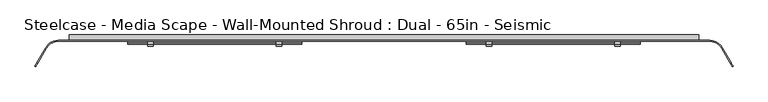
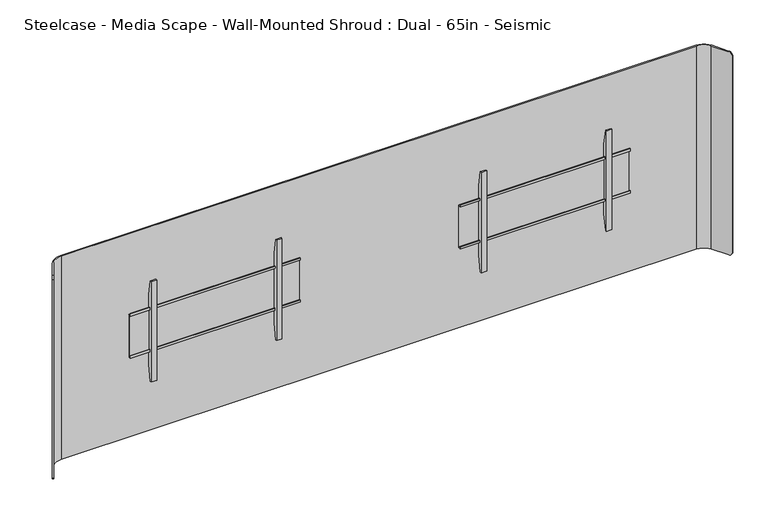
"""IFC4 building model written with IfcOpenShell, lengths in millimetres: furniture geometry, Steelcase - Media Scape - Wall-Mounted Shroud : Dual - 65in - Seismic."""

from ifc_helpers import new_model, si_unit, frame, origin, place, context, project, spatial, polyline, circle_curve, outline, extrude, source, transform, mapped, element, save
from ifc_brep_helpers import plane_surface, cylinder_surface, revolved_surface, advanced_brep


def steelcase_media_scape_wall_mounted_shroud_dual_65in_seismic_f65bf8d6(model_context):
    return source(origin(), model_context, "Body", "SolidModel", [
        extrude(outline(polyline([(-42.4942785, 1453.5504726), (-42.4942785, 1465.5645649), (-39.8272175, 1465.5645649), (-39.8272175, 1456.217461), (-29.9720009, 1456.217461), (-29.9720009, 1241.8922438), (-42.3164551, 1241.8922438), (-42.3164551, 1252.8142515), (-39.649394, 1252.8142515), (-39.649394, 1244.557052), (-32.6531824, 1244.557052), (-32.6531824, 1453.5504726), (-42.4942785, 1453.5504726)])), frame((382.524, 0.0, 0.0), z_axis=(1.0, 0.0, 0.0), x_axis=(0.0, 1.0, 0.0)), (0.0, 0.0, 1.0), 812.8),
        extrude(outline(polyline([(-32.6531824, 1524.4971148), (-32.6531824, 1172.6825607), (-46.5049349, 1095.0546949), (-53.3399828, 1095.0546949), (-53.3399828, 1603.0547192), (-46.5050076, 1603.0547192), (-32.6531824, 1524.4971148)])), frame((476.125426, 0.0, 0.0), z_axis=(1.0, 0.0, 0.0), x_axis=(0.0, 1.0, 0.0)), (0.0, 0.0, 1.0), 26.1592872),
        extrude(outline(polyline([(-32.6531824, 1524.4971148), (-32.6531824, 1172.6825607), (-46.5049349, 1095.0546949), (-53.3399828, 1095.0546949), (-53.3399828, 1603.0547192), (-46.5050076, 1603.0547192), (-32.6531824, 1524.4971148)])), frame((1075.5632868, 0.0, 0.0), z_axis=(1.0, 0.0, 0.0), x_axis=(0.0, 1.0, 0.0)), (0.0, 0.0, 1.0), 26.1592872),
        extrude(outline(polyline([(-42.4942785, 1453.5504726), (-42.4942785, 1465.5645649), (-39.8272175, 1465.5645649), (-39.8272175, 1456.217461), (-29.9720009, 1456.217461), (-29.9720009, 1241.8922438), (-42.3164551, 1241.8922438), (-42.3164551, 1252.8142515), (-39.649394, 1252.8142515), (-39.649394, 1244.557052), (-32.6531824, 1244.557052), (-32.6531824, 1453.5504726), (-42.4942785, 1453.5504726)])), frame((-1195.324, 0.0, 0.0), z_axis=(1.0, 0.0, 0.0), x_axis=(0.0, 1.0, 0.0)), (0.0, 0.0, 1.0), 812.8),
        extrude(outline(polyline([(-32.6531824, 1524.4971148), (-32.6531824, 1172.6825607), (-46.5049349, 1095.0546949), (-53.3399828, 1095.0546949), (-53.3399828, 1603.0547192), (-46.5050076, 1603.0547192), (-32.6531824, 1524.4971148)])), frame((-502.2847132, 0.0, 0.0), z_axis=(1.0, 0.0, 0.0), x_axis=(0.0, 1.0, 0.0)), (0.0, 0.0, 1.0), 26.1592872),
        extrude(outline(polyline([(-32.6531824, 1524.4971148), (-32.6531824, 1172.6825607), (-46.5049349, 1095.0546949), (-53.3399828, 1095.0546949), (-53.3399828, 1603.0547192), (-46.5050076, 1603.0547192), (-32.6531824, 1524.4971148)])), frame((-1101.722574, 0.0, 0.0), z_axis=(1.0, 0.0, 0.0), x_axis=(0.0, 1.0, 0.0)), (0.0, 0.0, 1.0), 26.1592872),
        extrude(outline(polyline([(1466.85, -25.4), (-1466.85, -25.4), (-1466.85, 0.0), (1466.85, 0.0), (1466.85, -25.4)])), frame((0.0, 0.0, 835.914), z_axis=(0.0, 0.0, 1.0), x_axis=(1.0, 0.0, 0.0)), (0.0, 0.0, 1.0), 76.2508167),
        advanced_brep(
        [(-1573.6586135, -61.722, 1864.614), (-1518.666002, -29.9720009, 1864.614), (1518.666, -29.9720009, 1864.614), (1573.6586135, -61.722, 1864.614), (1613.779586, -131.2135628, 1864.614), (1617.7390541, -128.9275628, 1864.614), (1577.6180817, -59.436, 1864.614), (1518.666002, -25.4, 1864.614), (-1518.666, -25.4, 1864.614), (-1577.6180817, -59.436, 1864.614), (-1617.7421659, -128.9329524, 1864.614), (-1613.7826977, -131.2189524, 1864.614), (-1577.6180817, -59.436, 835.914), (-1518.666002, -25.4, 835.914), (1518.666, -25.4, 835.914), (1577.6180817, -59.436, 835.914), (1617.7906629, -129.0169518, 835.914), (1613.8311948, -131.3029518, 835.914), (1573.6586135, -61.722, 835.914), (1518.666002, -29.9720009, 835.914), (-1518.666, -29.9720009, 835.914), (-1573.6586135, -61.722, 835.914), (-1613.8454014, -131.3275584, 835.914), (-1617.8048695, -129.0415584, 835.914), (-1627.3090632, -145.5033047, 849.5242766), (-1627.3090632, -145.5033047, 1850.6227735), (-1623.3495951, -147.7893047, 1850.6227735), (-1623.3495951, -147.7893047, 849.5242766), (1623.3270866, -147.7503189, 849.4756893), (1623.3270866, -147.7503189, 1850.7433849), (1627.2865547, -145.4643189, 1850.7433849), (1627.2865547, -145.4643189, 849.4756893)],
        [
            (0, 1, circle_curve(frame((-1518.666002, -93.4719991, 1864.614), z_axis=(0.0, 0.0, -1.0), x_axis=(0.0, 1.0, 0.0)), 63.4999981)),
            (1, 2),
            (2, 3, circle_curve(frame((1518.666002, -93.4719991, 1864.614), z_axis=(0.0, 0.0, -1.0), x_axis=(0.0, 1.0, 0.0)), 63.4999981)),
            (3, 4),
            (4, 5),
            (5, 6),
            (6, 7, circle_curve(frame((1518.6660004, -93.472, 1864.614), z_axis=(0.0, 0.0, 1.0), x_axis=(0.0, 1.0, 0.0)), 68.072)),
            (7, 8),
            (8, 9, circle_curve(frame((-1518.6660004, -93.472, 1864.614), z_axis=(0.0, 0.0, 1.0), x_axis=(0.0, 1.0, 0.0)), 68.072)),
            (9, 10),
            (10, 11),
            (11, 0),
            (12, 13, circle_curve(frame((-1518.6660004, -93.472, 835.914), z_axis=(0.0, 0.0, -1.0), x_axis=(0.0, 1.0, 0.0)), 68.072)),
            (13, 14),
            (14, 15, circle_curve(frame((1518.6660004, -93.472, 835.914), z_axis=(0.0, 0.0, -1.0), x_axis=(0.0, 1.0, 0.0)), 68.072)),
            (15, 16),
            (16, 17),
            (17, 18),
            (18, 19, circle_curve(frame((1518.666002, -93.4719991, 835.914), z_axis=(0.0, 0.0, 1.0), x_axis=(0.0, 1.0, 0.0)), 63.4999981)),
            (19, 20),
            (20, 21, circle_curve(frame((-1518.666002, -93.4719991, 835.914), z_axis=(0.0, 0.0, 1.0), x_axis=(0.0, 1.0, 0.0)), 63.4999981)),
            (21, 22),
            (22, 23),
            (23, 12),
            (0, 21),
            (20, 1),
            (8, 13),
            (12, 9),
            (23, 24, circle_curve(frame((-1617.8048695, -129.0415584, 855.9928872), z_axis=(-0.8660254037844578, 0.4999999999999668, 0.0), x_axis=(-0.4999999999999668, -0.8660254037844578, 0.0)), 20.0788872)),
            (24, 25),
            (25, 10, circle_curve(frame((-1617.7421659, -128.9329524, 1844.5351128), z_axis=(-0.866025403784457, 0.49999999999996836, 0.0), x_axis=(-0.49999999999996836, -0.866025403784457, 0.0)), 20.0788872)),
            (26, 25),
            (24, 27),
            (27, 26),
            (11, 26, circle_curve(frame((-1613.7826977, -131.2189524, 1844.5351128), z_axis=(0.866025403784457, -0.49999999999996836, 0.0), x_axis=(-0.49999999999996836, -0.866025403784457, 0.0)), 20.0788872)),
            (27, 22, circle_curve(frame((-1613.8454014, -131.3275584, 855.9928872), z_axis=(0.8660254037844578, -0.4999999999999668, 0.0), x_axis=(-0.4999999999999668, -0.8660254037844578, 0.0)), 20.0788872)),
            (7, 14),
            (19, 2),
            (3, 18),
            (17, 28, circle_curve(frame((1613.8311948, -131.3029518, 855.9928872), z_axis=(-0.8660254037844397, -0.49999999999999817, 0.0), x_axis=(0.49999999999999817, -0.8660254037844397, 0.0)), 20.0788872)),
            (28, 29),
            (29, 4, circle_curve(frame((1613.779586, -131.2135628, 1844.5351128), z_axis=(-0.8660254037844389, -0.49999999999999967, 0.0), x_axis=(0.49999999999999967, -0.8660254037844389, 0.0)), 20.0788872)),
            (30, 29),
            (28, 31),
            (31, 30),
            (15, 6),
            (5, 30, circle_curve(frame((1617.7390541, -128.9275628, 1844.5351128), z_axis=(0.8660254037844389, 0.49999999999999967, 0.0), x_axis=(0.49999999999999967, -0.8660254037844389, 0.0)), 20.0788872)),
            (31, 16, circle_curve(frame((1617.7906629, -129.0169518, 855.9928872), z_axis=(0.8660254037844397, 0.49999999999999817, 0.0), x_axis=(0.49999999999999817, -0.8660254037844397, 0.0)), 20.0788872)),
        ],
        [
            plane_surface(frame((-1518.666002, -29.9720009, 1864.614), z_axis=(0.0, 0.0, 1.0), x_axis=(1.0, 0.0, 0.0))),
            plane_surface(frame((-1518.666002, -29.9720009, 835.914), z_axis=(0.0, 0.0, -1.0), x_axis=(-1.0, 0.0, 0.0))),
            revolved_surface(polyline([(-1518.666002, -29.972001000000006, 835.914), (-1518.666002, -29.972001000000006, 1864.614)]), (-1518.666002, -93.4719991, 835.914), (0.0, 0.0, -1.0)),
            cylinder_surface(frame((-1518.6660004, -93.472, 835.914), z_axis=(0.0, 0.0, 1.0), x_axis=(0.0, 1.0, 0.0)), 68.072),
            plane_surface(frame((-1577.6180817, -59.436, 1864.614), z_axis=(-0.866025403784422, 0.5000000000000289, 0.0), x_axis=(0.0, 0.0, -1.0))),
            plane_surface(frame((-1627.3090632, -145.5033047, 1864.614), z_axis=(-0.5000000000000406, -0.8660254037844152, 0.0), x_axis=(0.0, 0.0, -1.0))),
            plane_surface(frame((-1623.3495951, -147.7893047, 1864.614), z_axis=(0.8660254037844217, -0.5000000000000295, 0.0), x_axis=(0.0, 0.0, -1.0))),
            plane_surface(frame((1518.666, -25.4, 1864.614), z_axis=(0.0, 1.0, 0.0), x_axis=(0.0, 0.0, -1.0))),
            plane_surface(frame((-1518.666, -29.9720009, 1864.614), z_axis=(0.0, -1.0, 0.0), x_axis=(0.0, 0.0, -1.0))),
            plane_surface(frame((1573.6586135, -61.722, 1864.614), z_axis=(-0.8660254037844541, -0.4999999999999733, 0.0), x_axis=(0.0, 0.0, -1.0))),
            plane_surface(frame((1623.3270866, -147.7503189, 1864.614), z_axis=(0.4999999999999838, -0.866025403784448, 0.0), x_axis=(0.0, 0.0, -1.0))),
            plane_surface(frame((1627.2865547, -145.4643189, 1864.614), z_axis=(0.8660254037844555, 0.49999999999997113, 0.0), x_axis=(0.0, 0.0, -1.0))),
            cylinder_surface(frame((1518.6660004, -93.472, 835.914), z_axis=(0.0, 0.0, 1.0), x_axis=(0.0, 1.0, 0.0)), 68.072),
            revolved_surface(polyline([(1518.666002, -29.972001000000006, 835.914), (1518.666002, -29.972001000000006, 1864.614)]), (1518.666002, -93.4719991, 835.914), (0.0, 0.0, -1.0)),
            cylinder_surface(frame((-1613.7826977, -131.2189524, 1844.5351128), z_axis=(0.866025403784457, -0.49999999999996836, 0.0), x_axis=(-0.49999999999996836, -0.866025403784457, 0.0)), 20.0788872),
            cylinder_surface(frame((-1613.8454014, -131.3275584, 855.9928872), z_axis=(0.8660254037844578, -0.4999999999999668, 0.0), x_axis=(-0.4999999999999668, -0.8660254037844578, 0.0)), 20.0788872),
            cylinder_surface(frame((1628.8864297, -122.4916225, 1844.5351128), z_axis=(0.8660254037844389, 0.49999999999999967, 0.0), x_axis=(0.49999999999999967, -0.8660254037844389, 0.0)), 20.0788872),
            cylinder_surface(frame((1626.0789695, -124.2316958, 855.9928872), z_axis=(0.8660254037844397, 0.49999999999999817, 0.0), x_axis=(0.49999999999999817, -0.8660254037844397, 0.0)), 20.0788872),
        ],
        [
            (0, [[1, 2, 3, 4, 5, 6, 7, 8, 9, 10, 11, 12]]),
            (1, [[13, 14, 15, 16, 17, 18, 19, 20, 21, 22, 23, 24]]),
            (2, [[-1, 25, -21, 26]]),
            (3, [[-9, 27, -13, 28]]),
            (4, [[-28, -24, 29, 30, 31, -10]]),
            (5, [[32, -30, 33, 34]]),
            (6, [[-25, -12, 35, -34, 36, -22]]),
            (7, [[-8, 37, -14, -27]]),
            (8, [[-2, -26, -20, 38]]),
            (9, [[39, -18, 40, 41, 42, -4]]),
            (10, [[43, -41, 44, 45]]),
            (11, [[46, -6, 47, -45, 48, -16]]),
            (12, [[-7, -46, -15, -37]]),
            (13, [[-3, -38, -19, -39]]),
            (14, [[-11, -31, -32, -35]]),
            (15, [[-23, -36, -33, -29]]),
            (16, [[-5, -42, -43, -47]]),
            (17, [[-17, -48, -44, -40]]),
        ],
    ),
        extrude(outline(polyline([(912.1648167, 1403.3499879), (912.1648167, 1466.85), (1788.414, 1466.85), (1788.414, -1466.85), (912.1648167, -1466.85), (912.1648167, -1404.3433465), (1724.9139516, -1404.3433465), (1724.9139516, 1403.3499879), (912.1648167, 1403.3499879)])), frame((0.0, -25.4, 0.0), z_axis=(0.0, 1.0, 0.0), x_axis=(0.0, 0.0, 1.0)), (0.0, 0.0, 1.0), 25.4),
    ])


if __name__ == "__main__":
    model = new_model("IFC4")
    model_context = context("Model", 3, world=origin())
    ifc_project = project(units=[si_unit("LENGTHUNIT", "METRE", prefix="MILLI")], contexts=[model_context])
    site = spatial("IfcSite", under=ifc_project)
    building = spatial("IfcBuilding", under=site)
    placement = place(None, origin())
    steelcase_media_scape_wall_mounted_shroud_dual_65in_seismic_shape = steelcase_media_scape_wall_mounted_shroud_dual_65in_seismic_f65bf8d6(model_context)
    element("IfcFurniture", 1, ObjectType="Steelcase - Media Scape - Wall-Mounted Shroud : Dual - 65in - Seismic", at=placement, inside=building, context=model_context, shape_type="MappedRepresentation", body=[
        mapped(steelcase_media_scape_wall_mounted_shroud_dual_65in_seismic_shape, transform((0.0, 0.0, 0.0), x_axis=(1.0, 0.0, 0.0), y_axis=(0.0, 1.0, 0.0), z_axis=(0.0, 0.0, 1.0))),
    ])
    save(model, "model.ifc")
